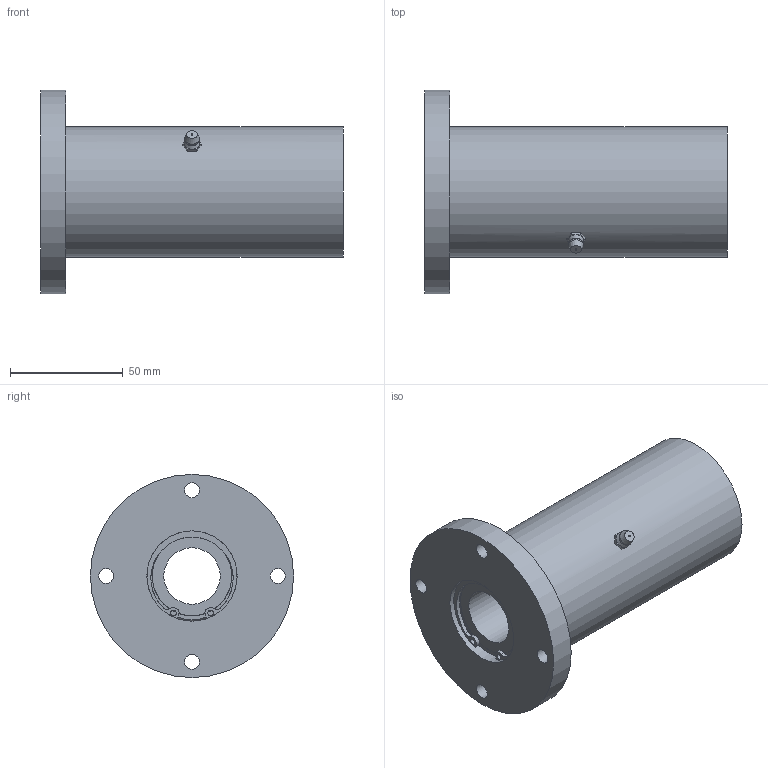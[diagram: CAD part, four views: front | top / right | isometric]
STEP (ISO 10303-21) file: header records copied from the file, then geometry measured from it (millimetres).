
FILE_DESCRIPTION((''),'2;1');
FILE_NAME('D:\製品 (図面)\カタログ用3D\リニアベアリング関連(改)\STEP形式\LFW-OH\LFW25-OH.stp','2010-01-22T16:17:07',('Tsuchiya'),(''),'Autodesk Inventor 10','Autodesk Inventor 10','');
FILE_SCHEMA(('AUTOMOTIVE_DESIGN { 1 0 10303 214 1 1 1 1 }'));
Length unit declared in the file: millimetre
Products named in the file (1): LFW25-OH
Bounding box: 134 x 90 x 90 mm (x, y, z)
Volume: 320854.3 mm3; surface area: 55607.3 mm2
Topology: 1 solids, 7 shells, 105 faces, 260 edges, 160 vertices
Faces by surface type: bspline 36, plane 31, cylinder 27, cone 7, sphere 2, torus 2
Full cylindrical faces by diameter (mm): 2.5 x2, 6.647 x4, 25 x2, 35.3 x2, 38 x2, 40 x8, 58 x1, 90 x1
Entity records: 3221 total; most frequent: CARTESIAN_POINT 950, DIRECTION 484, ORIENTED_EDGE 404, AXIS2_PLACEMENT_3D 224, EDGE_CURVE 202, EDGE_LOOP 178, CIRCLE 150, VERTEX_POINT 142
